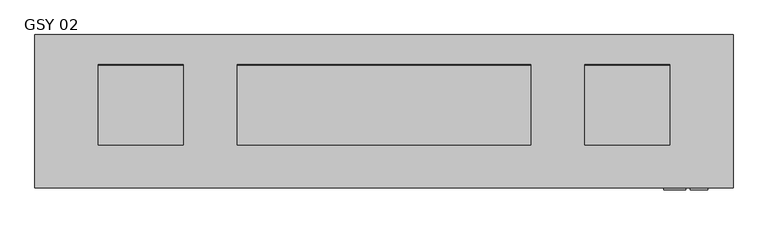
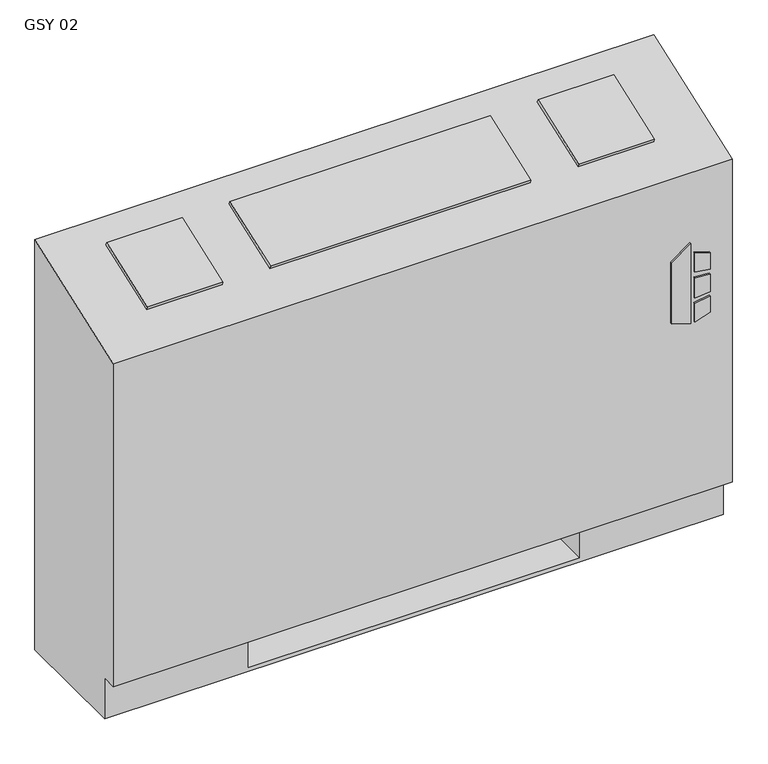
"""IFC4 building model written with IfcOpenShell, lengths in millimetres: proxy geometry, Vertical_Fan_Coil_Unit_-_GSY_-_IEC_-_2-Pipe_TS-FR_LH_2022 : GSY 02."""

from ifc_helpers import new_model, si_unit, point, frame, frame_2d, origin, place, context, project, spatial, polyline, circle_curve, trimmed, segment, composite_curve, outline, extrude, source, transform, mapped, element, save
from ifc_brep_helpers import plane_surface, revolved_surface, advanced_brep


def gsy_02_d2016dfe(model_context):
    return source(origin(), model_context, "Body", "SolidModel", [
        extrude(outline(polyline([(391.6086829, 569.9868862), (381.6606126, 602.1602728), (523.831537, 602.1602728), (500.8095309, 569.9868862), (391.6086829, 569.9868862)])), frame((0.0, 12.7, 0.0), z_axis=(0.0, 1.0, 0.0), x_axis=(0.0, 0.0, 1.0)), (0.0, 0.0, 1.0), 3.175),
        extrude(outline(polyline([(470.6079683, 608.9186058), (467.4055757, 635.0), (496.6344168, 635.0), (504.6988318, 608.9186058), (470.6079683, 608.9186058)])), frame((0.0, 12.7, 0.0), z_axis=(0.0, 1.0, 0.0), x_axis=(0.0, 0.0, 1.0)), (0.0, 0.0, 1.0), 3.175),
        extrude(outline(polyline([(418.7444414, 635.0), (415.0789404, 608.9186058), (381.6606126, 608.9186058), (390.2948498, 635.0), (418.7444414, 635.0)])), frame((0.0, 12.7, 0.0), z_axis=(0.0, 1.0, 0.0), x_axis=(0.0, 0.0, 1.0)), (0.0, 0.0, 1.0), 3.175),
        extrude(outline(polyline([(458.0596028, 635.0), (460.3414292, 608.9186058), (424.4038806, 608.9186058), (427.1451456, 635.0), (458.0596028, 635.0)])), frame((0.0, 12.7, 0.0), z_axis=(0.0, 1.0, 0.0), x_axis=(0.0, 0.0, 1.0)), (0.0, 0.0, 1.0), 3.175),
        extrude(outline(polyline([(0.0, -126.2347031), (0.0, 0.0), (127.0, 0.0), (127.0, -126.2347031), (0.0, -126.2347031)])), frame((-274.193, 200.4217127, 714.3418685), z_axis=(0.0, -0.33964446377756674, 0.9405538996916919), x_axis=(1.0, 0.0, 0.0)), (0.0, 0.0, 1.0), 6.35),
        extrude(outline(polyline([(0.0, -126.2347031), (0.0, 0.0), (438.15, 0.0), (438.15, -126.2347031), (0.0, -126.2347031)])), frame((371.475, 81.6911704, 671.4669504), z_axis=(0.0, -0.3396444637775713, 0.9405538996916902), x_axis=(-1.0, 0.0, 0.0)), (0.0, 0.0, 1.0), 6.35),
        extrude(outline(polyline([(0.0, -126.2347031), (0.0, 0.0), (127.0, 0.0), (127.0, -126.2347031), (0.0, -126.2347031)])), frame((578.993, 81.6911704, 671.4669504), z_axis=(0.0, -0.3396444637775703, 0.9405538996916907), x_axis=(-1.0, 0.0, 0.0)), (0.0, 0.0, 1.0), 6.35),
        extrude(outline(polyline([(431.8, 81.534), (431.8, 223.266), (552.45, 223.266), (552.45, 81.534), (431.8, 81.534)])), frame((0.0, 0.0, 327.025), z_axis=(0.0, 0.0, 1.0), x_axis=(1.0, 0.0, 0.0)), (0.0, 0.0, 1.0), 260.35),
        extrude(outline(composite_curve([segment(trimmed(circle_curve(frame_2d((80.645, 397.002)), 7.9375), [point((80.645, 404.9395))], [point((80.645, 389.0645))], False, "CARTESIAN"), True, "CONTINUOUS"), segment(trimmed(circle_curve(frame_2d((80.645, 397.002)), 7.9375), [point((80.645, 389.0645))], [point((80.645, 404.9395))], False, "CARTESIAN"), True, "CONTINUOUS")], self_intersect=False)), frame((-177.8, 0.0, 0.0), z_axis=(1.0, 0.0, 0.0), x_axis=(0.0, 1.0, 0.0)), (0.0, 0.0, 1.0), 50.8),
        extrude(outline(composite_curve([segment(trimmed(circle_curve(frame_2d((156.8958, 535.8892)), 7.9375), [point((156.8958, 543.8267))], [point((156.8958, 527.9517))], False, "CARTESIAN"), True, "CONTINUOUS"), segment(trimmed(circle_curve(frame_2d((156.8958, 535.8892)), 7.9375), [point((156.8958, 527.9517))], [point((156.8958, 543.8267))], False, "CARTESIAN"), True, "CONTINUOUS")], self_intersect=False)), frame((-177.8, 0.0, 0.0), z_axis=(1.0, 0.0, 0.0), x_axis=(0.0, 1.0, 0.0)), (0.0, 0.0, 1.0), 50.8),
        advanced_brep(
        [(-368.3, 244.475, 0.0), (673.1, 244.475, 0.0), (673.1, 41.275, 0.0), (-368.3, 41.275, 0.0), (-368.3, 244.475, 730.25), (673.1, 244.475, 730.25), (431.8, 244.475, 73.025), (660.4, 244.475, 73.025), (660.4, 244.475, 654.05), (431.8, 244.475, 654.05), (431.8, 244.475, 414.8650565), (460.375, 244.475, 414.8650565), (460.375, 244.475, 385.2349435), (431.8, 244.475, 385.2349435), (431.8, 244.475, 287.3375), (460.375, 244.475, 287.3375), (460.375, 244.475, 258.7625), (431.8, 244.475, 258.7625), (431.8, 244.475, 141.2875), (460.375, 244.475, 141.2875), (460.375, 244.475, 112.7125), (431.8, 244.475, 112.7125), (-127.0, 244.475, 654.05), (-355.6, 244.475, 654.05), (-355.6, 244.475, 73.025), (-127.0, 244.475, 73.025), (-127.0, 244.475, 112.7125), (-155.575, 244.475, 112.7125), (-155.575, 244.475, 141.2875), (-127.0, 244.475, 141.2875), (-127.0, 244.475, 258.7625), (-155.575, 244.475, 258.7625), (-155.575, 244.475, 287.3375), (-127.0, 244.475, 287.3375), (-127.0, 244.475, 385.2349435), (-155.575, 244.475, 385.2349435), (-155.575, 244.475, 414.8650565), (-127.0, 244.475, 414.8650565), (450.0626, 244.475, 127.0), (438.9374, 244.475, 127.0), (450.0626, 244.475, 400.05), (438.9374, 244.475, 400.05), (450.0626, 244.475, 273.05), (438.9374, 244.475, 273.05), (-134.1374, 244.475, 127.0), (-145.2626, 244.475, 127.0), (-134.1374, 244.475, 273.05), (-145.2626, 244.475, 273.05), (-134.1374, 244.475, 400.05), (-145.2626, 244.475, 400.05), (-368.3, 41.275, 73.025), (-368.3, 15.875, 73.025), (-368.3, 15.875, 647.7), (673.1, 15.875, 73.025), (673.1, 15.875, 647.7), (673.1, 41.275, 73.025), (-127.0, 41.275, 73.025), (-127.0, 225.425, 73.025), (431.8, 225.425, 73.025), (431.8, 41.275, 73.025), (431.8, 41.275, 6.35), (-127.0, 41.275, 6.35), (431.8, 41.275, 654.05), (660.4, 41.275, 654.05), (660.4, 41.275, 73.025), (431.8, 41.275, 73.025), (-127.0, 41.275, 654.05), (-127.0, 41.275, 73.025), (-355.6, 41.275, 73.025), (-355.6, 41.275, 654.05), (431.8, 225.425, 73.025), (431.8, 238.125, 112.7125), (431.8, 238.125, 141.2875), (431.8, 238.125, 258.7625), (431.8, 238.125, 287.3375), (431.8, 238.125, 385.2349435), (431.8, 238.125, 414.8650565), (-127.0, 225.425, 73.025), (-127.0, 238.125, 414.8650565), (-127.0, 238.125, 385.2349435), (-127.0, 238.125, 287.3375), (-127.0, 238.125, 258.7625), (-127.0, 238.125, 141.2875), (-127.0, 238.125, 112.7125), (-127.0, 225.425, 6.35), (431.8, 225.425, 6.35), (460.375, 238.125, 112.7125), (460.375, 238.125, 141.2875), (438.9374, 238.125, 127.0), (450.0626, 238.125, 127.0), (460.375, 238.125, 258.7625), (460.375, 238.125, 287.3375), (438.9374, 238.125, 273.05), (450.0626, 238.125, 273.05), (460.375, 238.125, 385.2349435), (460.375, 238.125, 414.8650565), (438.9374, 238.125, 400.05), (450.0626, 238.125, 400.05), (-155.575, 238.125, 141.2875), (-155.575, 238.125, 112.7125), (-145.2626, 238.125, 127.0), (-134.1374, 238.125, 127.0), (-155.575, 238.125, 287.3375), (-155.575, 238.125, 258.7625), (-145.2626, 238.125, 273.05), (-134.1374, 238.125, 273.05), (-155.575, 238.125, 414.8650565), (-155.575, 238.125, 385.2349435), (-145.2626, 238.125, 400.05), (-134.1374, 238.125, 400.05)],
        [
            (0, 1),
            (1, 2),
            (2, 3),
            (3, 0),
            (0, 4),
            (4, 5),
            (5, 1),
            (6, 7),
            (7, 8),
            (8, 9),
            (9, 10),
            (10, 11),
            (11, 12),
            (12, 13),
            (13, 14),
            (14, 15),
            (15, 16),
            (16, 17),
            (17, 18),
            (18, 19),
            (19, 20),
            (20, 21),
            (21, 6),
            (22, 23),
            (23, 24),
            (24, 25),
            (25, 26),
            (26, 27),
            (27, 28),
            (28, 29),
            (29, 30),
            (30, 31),
            (31, 32),
            (32, 33),
            (33, 34),
            (34, 35),
            (35, 36),
            (36, 37),
            (37, 22),
            (38, 39, circle_curve(frame((444.5, 244.475, 127.0), z_axis=(0.0, -1.0, 0.0), x_axis=(-1.0, 0.0, 0.0)), 5.5626)),
            (39, 38, circle_curve(frame((444.5, 244.475, 127.0), z_axis=(0.0, -1.0, 0.0), x_axis=(-1.0, 0.0, 0.0)), 5.5626)),
            (40, 41, circle_curve(frame((444.5, 244.475, 400.05), z_axis=(0.0, -1.0, 0.0), x_axis=(-1.0, 0.0, 0.0)), 5.5626)),
            (41, 40, circle_curve(frame((444.5, 244.475, 400.05), z_axis=(0.0, -1.0, 0.0), x_axis=(-1.0, 0.0, 0.0)), 5.5626)),
            (42, 43, circle_curve(frame((444.5, 244.475, 273.05), z_axis=(0.0, -1.0, 0.0), x_axis=(-1.0, 0.0, 0.0)), 5.5626)),
            (43, 42, circle_curve(frame((444.5, 244.475, 273.05), z_axis=(0.0, -1.0, 0.0), x_axis=(-1.0, 0.0, 0.0)), 5.5626)),
            (44, 45, circle_curve(frame((-139.7, 244.475, 127.0), z_axis=(0.0, -1.0, 0.0), x_axis=(-1.0, 0.0, 0.0)), 5.5626)),
            (45, 44, circle_curve(frame((-139.7, 244.475, 127.0), z_axis=(0.0, -1.0, 0.0), x_axis=(-1.0, 0.0, 0.0)), 5.5626)),
            (46, 47, circle_curve(frame((-139.7, 244.475, 273.05), z_axis=(0.0, -1.0, 0.0), x_axis=(-1.0, 0.0, 0.0)), 5.5626)),
            (47, 46, circle_curve(frame((-139.7, 244.475, 273.05), z_axis=(0.0, -1.0, 0.0), x_axis=(-1.0, 0.0, 0.0)), 5.5626)),
            (48, 49, circle_curve(frame((-139.7, 244.475, 400.05), z_axis=(0.0, -1.0, 0.0), x_axis=(-1.0, 0.0, 0.0)), 5.5626)),
            (49, 48, circle_curve(frame((-139.7, 244.475, 400.05), z_axis=(0.0, -1.0, 0.0), x_axis=(-1.0, 0.0, 0.0)), 5.5626)),
            (3, 50),
            (50, 51),
            (51, 52),
            (52, 4),
            (51, 53),
            (53, 54),
            (54, 52),
            (5, 54),
            (53, 55),
            (55, 2),
            (50, 56),
            (56, 57),
            (57, 58),
            (58, 59),
            (59, 55),
            (59, 60),
            (60, 61),
            (61, 56),
            (62, 63),
            (63, 64),
            (64, 65),
            (65, 62),
            (66, 67),
            (67, 68),
            (68, 69),
            (69, 66),
            (65, 70),
            (70, 6),
            (21, 71),
            (71, 72),
            (72, 18),
            (17, 73),
            (73, 74),
            (74, 14),
            (13, 75),
            (75, 76),
            (76, 10),
            (9, 62),
            (64, 7),
            (63, 8),
            (69, 23),
            (22, 66),
            (68, 24),
            (67, 77),
            (77, 25),
            (37, 78),
            (78, 79),
            (79, 34),
            (33, 80),
            (80, 81),
            (81, 30),
            (29, 82),
            (82, 83),
            (83, 26),
            (57, 84),
            (84, 85),
            (85, 58),
            (85, 60),
            (84, 61),
            (71, 86),
            (86, 87),
            (87, 72),
            (88, 89, circle_curve(frame((444.5, 238.125, 127.0), z_axis=(0.0, 1.0, 0.0), x_axis=(-1.0, 0.0, 0.0)), 5.5626)),
            (89, 88, circle_curve(frame((444.5, 238.125, 127.0), z_axis=(0.0, 1.0, 0.0), x_axis=(-1.0, 0.0, 0.0)), 5.5626)),
            (73, 90),
            (90, 91),
            (91, 74),
            (92, 93, circle_curve(frame((444.5, 238.125, 273.05), z_axis=(0.0, 1.0, 0.0), x_axis=(-1.0, 0.0, 0.0)), 5.5626)),
            (93, 92, circle_curve(frame((444.5, 238.125, 273.05), z_axis=(0.0, 1.0, 0.0), x_axis=(-1.0, 0.0, 0.0)), 5.5626)),
            (75, 94),
            (94, 95),
            (95, 76),
            (96, 97, circle_curve(frame((444.5, 238.125, 400.05), z_axis=(0.0, 1.0, 0.0), x_axis=(-1.0, 0.0, 0.0)), 5.5626)),
            (97, 96, circle_curve(frame((444.5, 238.125, 400.05), z_axis=(0.0, 1.0, 0.0), x_axis=(-1.0, 0.0, 0.0)), 5.5626)),
            (98, 99),
            (99, 83),
            (82, 98),
            (100, 101, circle_curve(frame((-139.7, 238.125, 127.0), z_axis=(0.0, 1.0, 0.0), x_axis=(-1.0, 0.0, 0.0)), 5.5626)),
            (101, 100, circle_curve(frame((-139.7, 238.125, 127.0), z_axis=(0.0, 1.0, 0.0), x_axis=(-1.0, 0.0, 0.0)), 5.5626)),
            (102, 103),
            (103, 81),
            (80, 102),
            (104, 105, circle_curve(frame((-139.7, 238.125, 273.05), z_axis=(0.0, 1.0, 0.0), x_axis=(-1.0, 0.0, 0.0)), 5.5626)),
            (105, 104, circle_curve(frame((-139.7, 238.125, 273.05), z_axis=(0.0, 1.0, 0.0), x_axis=(-1.0, 0.0, 0.0)), 5.5626)),
            (106, 107),
            (107, 79),
            (78, 106),
            (108, 109, circle_curve(frame((-139.7, 238.125, 400.05), z_axis=(0.0, 1.0, 0.0), x_axis=(-1.0, 0.0, 0.0)), 5.5626)),
            (109, 108, circle_curve(frame((-139.7, 238.125, 400.05), z_axis=(0.0, 1.0, 0.0), x_axis=(-1.0, 0.0, 0.0)), 5.5626)),
            (87, 19),
            (86, 20),
            (91, 15),
            (90, 16),
            (95, 11),
            (94, 12),
            (28, 98),
            (99, 27),
            (32, 102),
            (103, 31),
            (36, 106),
            (107, 35),
            (88, 39),
            (38, 89),
            (96, 41),
            (40, 97),
            (92, 43),
            (42, 93),
            (100, 45),
            (44, 101),
            (104, 47),
            (46, 105),
            (108, 49),
            (48, 109),
        ],
        [
            plane_surface(frame((-368.3, 244.475, 0.0), z_axis=(0.0, 0.0, -1.0), x_axis=(1.0, 0.0, 0.0))),
            plane_surface(frame((673.1, 244.475, 730.25), z_axis=(0.0, 1.0, 0.0), x_axis=(0.0, 0.0, -1.0))),
            plane_surface(frame((-368.3, 244.475, 730.25), z_axis=(-1.0, 0.0, 0.0), x_axis=(0.0, 0.0, -1.0))),
            plane_surface(frame((-368.3, 15.875, 730.25), z_axis=(0.0, -1.0, 0.0), x_axis=(0.0, 0.0, -1.0))),
            plane_surface(frame((673.1, 15.875, 730.25), z_axis=(1.0, 0.0, 0.0), x_axis=(0.0, 0.0, -1.0))),
            plane_surface(frame((-368.3, 15.875, 73.025), z_axis=(0.0, 0.0, -1.0), x_axis=(1.0, 0.0, 0.0))),
            plane_surface(frame((-368.3, 41.275, 73.025), z_axis=(0.0, -1.0, 0.0), x_axis=(1.0, 0.0, 0.0))),
            plane_surface(frame((431.8, 41.275, 654.05), z_axis=(0.0, 1.0, 0.0), x_axis=(0.0, 0.0, -1.0))),
            plane_surface(frame((431.8, 41.275, 654.05), z_axis=(1.0, 0.0, 0.0), x_axis=(0.0, 1.0, 0.0))),
            plane_surface(frame((431.8, 41.275, 73.025), z_axis=(0.0, 0.0, 1.0), x_axis=(0.0, 1.0, 0.0))),
            plane_surface(frame((660.4, 41.275, 73.025), z_axis=(-1.0, 0.0, 0.0), x_axis=(0.0, 1.0, 0.0))),
            plane_surface(frame((660.4, 41.275, 654.05), z_axis=(0.0, 0.0, -1.0), x_axis=(0.0, 1.0, 0.0))),
            plane_surface(frame((-127.0, 41.275, 654.05), z_axis=(0.0, 0.0, -1.0), x_axis=(0.0, 1.0, 0.0))),
            plane_surface(frame((-355.6, 41.275, 654.05), z_axis=(1.0, 0.0, 0.0), x_axis=(0.0, 1.0, 0.0))),
            plane_surface(frame((-355.6, 41.275, 73.025), z_axis=(0.0, 0.0, 1.0), x_axis=(0.0, 1.0, 0.0))),
            plane_surface(frame((-127.0, 41.275, 73.025), z_axis=(-1.0, 0.0, 0.0), x_axis=(0.0, 1.0, 0.0))),
            plane_surface(frame((431.8, 225.425, 73.025), z_axis=(0.0, -1.0, 0.0), x_axis=(0.0, 0.0, -1.0))),
            plane_surface(frame((431.8, 225.425, 73.025), z_axis=(-1.0, 0.0, 0.0), x_axis=(0.0, -1.0, 0.0))),
            plane_surface(frame((431.8, 225.425, 6.35), z_axis=(0.0, 0.0, 1.0), x_axis=(0.0, -1.0, 0.0))),
            plane_surface(frame((-127.0, 225.425, 6.35), z_axis=(1.0, 0.0, 0.0), x_axis=(0.0, -1.0, 0.0))),
            plane_surface(frame((460.375, 238.125, 141.2875), z_axis=(0.0, -1.0, 0.0), x_axis=(-1.0, 0.0, 0.0))),
            plane_surface(frame((431.8, 244.475, 141.2875), z_axis=(0.0, 0.0, 1.0), x_axis=(0.0, -1.0, 0.0))),
            plane_surface(frame((460.375, 244.475, 141.2875), z_axis=(1.0, 0.0, 0.0), x_axis=(0.0, -1.0, 0.0))),
            plane_surface(frame((460.375, 244.475, 112.7125), z_axis=(0.0, 0.0, -1.0), x_axis=(0.0, -1.0, 0.0))),
            plane_surface(frame((431.8, 244.475, 287.3375), z_axis=(0.0, 0.0, 1.0), x_axis=(0.0, -1.0, 0.0))),
            plane_surface(frame((460.375, 244.475, 287.3375), z_axis=(1.0, 0.0, 0.0), x_axis=(0.0, -1.0, 0.0))),
            plane_surface(frame((460.375, 244.475, 258.7625), z_axis=(0.0, 0.0, -1.0), x_axis=(0.0, -1.0, 0.0))),
            plane_surface(frame((431.8, 244.475, 414.8650565), z_axis=(0.0, 0.0, 1.0), x_axis=(0.0, -1.0, 0.0))),
            plane_surface(frame((460.375, 244.475, 414.8650565), z_axis=(1.0, 0.0, 0.0), x_axis=(0.0, -1.0, 0.0))),
            plane_surface(frame((460.375, 244.475, 385.2349435), z_axis=(0.0, 0.0, -1.0), x_axis=(0.0, -1.0, 0.0))),
            plane_surface(frame((-155.575, 244.475, 141.2875), z_axis=(0.0, 0.0, 1.0), x_axis=(0.0, -1.0, 0.0))),
            plane_surface(frame((-127.0, 244.475, 112.7125), z_axis=(0.0, 0.0, -1.0), x_axis=(0.0, -1.0, 0.0))),
            plane_surface(frame((-155.575, 244.475, 112.7125), z_axis=(-1.0, 0.0, 0.0), x_axis=(0.0, -1.0, 0.0))),
            plane_surface(frame((-155.575, 244.475, 287.3375), z_axis=(0.0, 0.0, 1.0), x_axis=(0.0, -1.0, 0.0))),
            plane_surface(frame((-127.0, 244.475, 258.7625), z_axis=(0.0, 0.0, -1.0), x_axis=(0.0, -1.0, 0.0))),
            plane_surface(frame((-155.575, 244.475, 258.7625), z_axis=(-1.0, 0.0, 0.0), x_axis=(0.0, -1.0, 0.0))),
            plane_surface(frame((-155.575, 244.475, 414.8650565), z_axis=(0.0, 0.0, 1.0), x_axis=(0.0, -1.0, 0.0))),
            plane_surface(frame((-127.0, 244.475, 385.2349435), z_axis=(0.0, 0.0, -1.0), x_axis=(0.0, -1.0, 0.0))),
            plane_surface(frame((-155.575, 244.475, 385.2349435), z_axis=(-1.0, 0.0, 0.0), x_axis=(0.0, -1.0, 0.0))),
            revolved_surface(polyline([(438.9374, 238.125, 127.0), (438.9374, 244.475, 127.0)]), (444.5, 244.475, 127.0), (0.0, -1.0, 0.0)),
            revolved_surface(polyline([(438.9374, 238.125, 400.05), (438.9374, 244.475, 400.05)]), (444.5, 244.475, 400.05), (0.0, -1.0, 0.0)),
            revolved_surface(polyline([(438.9374, 238.125, 273.05), (438.9374, 244.475, 273.05)]), (444.5, 244.475, 273.05), (0.0, -1.0, 0.0)),
            revolved_surface(polyline([(-145.2626, 238.125, 127.0), (-145.2626, 244.475, 127.0)]), (-139.7, 244.475, 127.0), (0.0, -1.0, 0.0)),
            revolved_surface(polyline([(-145.2626, 238.125, 273.05), (-145.2626, 244.475, 273.05)]), (-139.7, 244.475, 273.05), (0.0, -1.0, 0.0)),
            revolved_surface(polyline([(-145.2626, 238.125, 400.05), (-145.2626, 244.475, 400.05)]), (-139.7, 244.475, 400.05), (0.0, -1.0, 0.0)),
            plane_surface(frame((-368.3, 244.475, 730.25), z_axis=(0.0, -0.33964446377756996, 0.9405538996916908), x_axis=(1.0, 0.0, 0.0))),
        ],
        [
            (0, [[1, 2, 3, 4]]),
            (1, [[-1, 5, 6, 7], [8, 9, 10, 11, 12, 13, 14, 15, 16, 17, 18, 19, 20, 21, 22, 23], [24, 25, 26, 27, 28, 29, 30, 31, 32, 33, 34, 35, 36, 37, 38, 39], [40, 41], [42, 43], [44, 45], [46, 47], [48, 49], [50, 51]]),
            (2, [[-5, -4, 52, 53, 54, 55]]),
            (3, [[56, 57, 58, -54]]),
            (4, [[-7, 59, -57, 60, 61, -2]]),
            (5, [[-53, 62, 63, 64, 65, 66, -60, -56]]),
            (6, [[-3, -61, -66, 67, 68, 69, -62, -52]]),
            (7, [[70, 71, 72, 73]]),
            (7, [[74, 75, 76, 77]]),
            (8, [[-73, 78, 79, -23, 80, 81, 82, -19, 83, 84, 85, -15, 86, 87, 88, -11, 89]]),
            (9, [[-72, 90, -8, -79, -78]]),
            (10, [[-71, 91, -9, -90]]),
            (11, [[-70, -89, -10, -91]]),
            (12, [[-77, 92, -24, 93]]),
            (13, [[-76, 94, -25, -92]]),
            (14, [[-75, 95, 96, -26, -94]]),
            (15, [[-74, -93, -39, 97, 98, 99, -35, 100, 101, 102, -31, 103, 104, 105, -27, -96, -95]]),
            (16, [[-64, 106, 107, 108]]),
            (17, [[-108, 109, -67, -65]]),
            (18, [[-107, 110, -68, -109]]),
            (19, [[-106, -63, -69, -110]]),
            (20, [[111, 112, 113, -81], [114, 115]]),
            (20, [[116, 117, 118, -84], [119, 120]]),
            (20, [[121, 122, 123, -87], [124, 125]]),
            (20, [[126, 127, -104, 128], [129, 130]]),
            (20, [[131, 132, -101, 133], [134, 135]]),
            (20, [[136, 137, -98, 138], [139, 140]]),
            (21, [[-113, 141, -20, -82]]),
            (22, [[-112, 142, -21, -141]]),
            (23, [[-111, -80, -22, -142]]),
            (24, [[-118, 143, -16, -85]]),
            (25, [[-117, 144, -17, -143]]),
            (26, [[-116, -83, -18, -144]]),
            (27, [[-123, 145, -12, -88]]),
            (28, [[-122, 146, -13, -145]]),
            (29, [[-121, -86, -14, -146]]),
            (30, [[-128, -103, -30, 147]]),
            (31, [[-127, 148, -28, -105]]),
            (32, [[-126, -147, -29, -148]]),
            (33, [[-133, -100, -34, 149]]),
            (34, [[-132, 150, -32, -102]]),
            (35, [[-131, -149, -33, -150]]),
            (36, [[-138, -97, -38, 151]]),
            (37, [[-137, 152, -36, -99]]),
            (38, [[-136, -151, -37, -152]]),
            (39, [[153, -40, 154, -114]]),
            (39, [[-153, -115, -154, -41]]),
            (40, [[155, -42, 156, -124]]),
            (40, [[-155, -125, -156, -43]]),
            (41, [[157, -44, 158, -119]]),
            (41, [[-157, -120, -158, -45]]),
            (42, [[159, -46, 160, -129]]),
            (42, [[-159, -130, -160, -47]]),
            (43, [[161, -48, 162, -134]]),
            (43, [[-161, -135, -162, -49]]),
            (44, [[163, -50, 164, -139]]),
            (44, [[-163, -140, -164, -51]]),
            (45, [[-6, -55, -58, -59]]),
        ],
    ),
    ])


if __name__ == "__main__":
    model = new_model("IFC4")
    model_context = context("Model", 3, world=origin())
    ifc_project = project(units=[si_unit("LENGTHUNIT", "METRE", prefix="MILLI")], contexts=[model_context])
    site = spatial("IfcSite", under=ifc_project)
    building = spatial("IfcBuilding", under=site)
    placement = place(None, origin())
    gsy_02_shape = gsy_02_d2016dfe(model_context)
    element("IfcBuildingElementProxy", 1, Name="Vertical_Fan_Coil_Unit_-_GSY_-_IEC_-_2-Pipe_TS-FR_LH_2022 : GSY 02", ObjectType="Vertical_Fan_Coil_Unit_-_GSY_-_IEC_-_2-Pipe_TS-FR_LH_2022 : GSY 02", at=placement, inside=building, context=model_context, shape_type="MappedRepresentation", body=[
        mapped(gsy_02_shape, transform((0.0, 0.0, 0.0), x_axis=(1.0, 0.0, 0.0), y_axis=(0.0, 1.0, 0.0), z_axis=(0.0, 0.0, 1.0))),
    ])
    save(model, "model.ifc")
